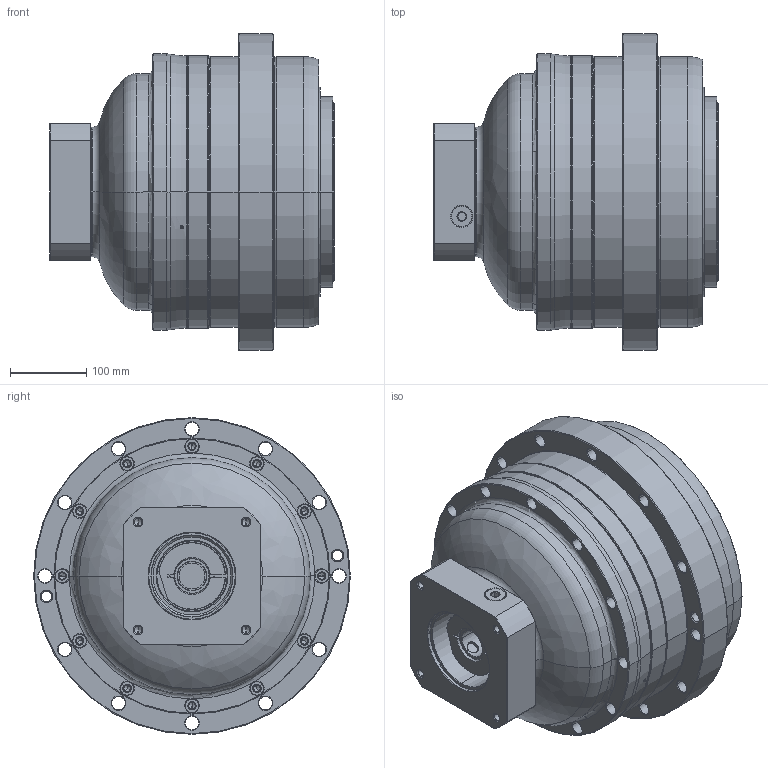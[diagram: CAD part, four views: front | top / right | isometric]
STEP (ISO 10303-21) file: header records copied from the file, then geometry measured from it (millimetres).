
FILE_DESCRIPTION((''),'2;1');
FILE_NAME('AH355_2ST_38-P0409950101_ASM','2016-08-02T',('d01943'),(''),'PRO/ENGINEER BY PARAMETRIC TECHNOLOGY CORPORATION, 2008410','PRO/ENGINEER BY PARAMETRIC TECHNOLOGY CORPORATION, 2008410','');
FILE_SCHEMA(('CONFIG_CONTROL_DESIGN'));
Length unit declared in the file: millimetre
Products named in the file (8): P0276100003; P0357100003; P1339100101; P0409950101; P0503900012; P0962101001; 21711422019; AH355_2ST_38-P0409950101_ASM
Assembly tree (7 placements, depth 2):
  AH355_2ST_38-P0409950101_ASM
    P0276100003
    P0357100003
    P1339100101
    P0409950101
    P0503900012
    P0962101001
    21711422019
Bounding box: 372.5 x 415 x 415 mm (x, y, z)
Volume: 24748834 mm3; surface area: 1264164.7 mm2
Topology: 8 solids, 8 shells, 830 faces, 1887 edges, 1096 vertices
Faces by surface type: cylinder 308, cone 274, torus 112, plane 108, bspline 28
Entity records: 28203 total; most frequent: CARTESIAN_POINT 9007, DIRECTION 4393, ORIENTED_EDGE 3678, AXIS2_PLACEMENT_3D 1866, EDGE_CURVE 1839, VERTEX_POINT 1096, CIRCLE 1049, EDGE_LOOP 1001
